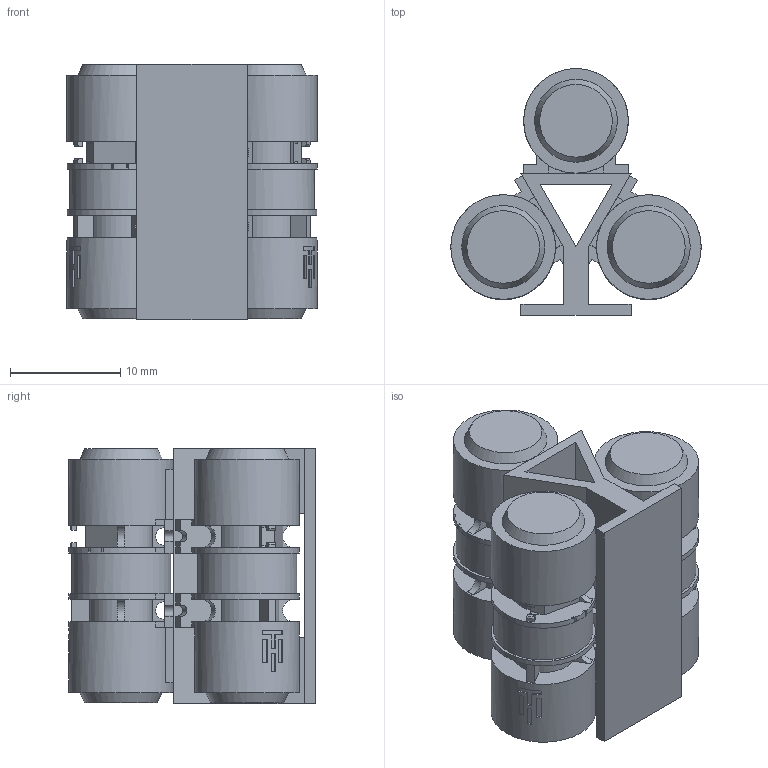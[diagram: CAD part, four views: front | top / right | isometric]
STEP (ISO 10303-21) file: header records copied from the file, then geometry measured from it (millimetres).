
FILE_DESCRIPTION(/* description */ (''),/* implementation_level */ '2;1');
FILE_NAME(/* name */ '3x drake triangle v5.step',/* time_stamp */ '2023-06-06T15:47:30-04:00',/* author */ (''),/* organization */ (''),/* preprocessor_version */ 'ST-DEVELOPER v19.2',/* originating_system */ 'Autodesk Translation Framework v12.6.0.85',/* authorisation */ '');
FILE_SCHEMA (('CONFIG_CONTROL_DESIGN','AUTOMOTIVE_DESIGN { 1 0 10303 214 3 1 1 }'));
Length unit declared in the file: millimetre
Products named in the file (5): 3x drake triangle; TacHammer - Drake Volume; TacHammer - Drake Volume_1; Volume_Env; 3x triangular holder
Assembly tree (6 placements, depth 3):
  3x drake triangle
    TacHammer - Drake Volume
      Volume_Env
    TacHammer - Drake Volume_1  x2
      Volume_Env
    3x triangular holder
Bounding box: 22.73 x 22.39 x 23.2 mm (x, y, z)
Volume: 5176.6 mm3; surface area: 5053 mm2
Topology: 4 solids, 4 shells, 546 faces, 1503 edges, 972 vertices
Faces by surface type: plane 387, cylinder 147, cone 6, torus 6
Full cylindrical faces by diameter (mm): 9 x3, 9.5 x6
Entity records: 6361 total; most frequent: CARTESIAN_POINT 1109, DIRECTION 1077, ORIENTED_EDGE 1074, EDGE_CURVE 537, LINE 405, VECTOR 405, VERTEX_POINT 348, AXIS2_PLACEMENT_3D 336
